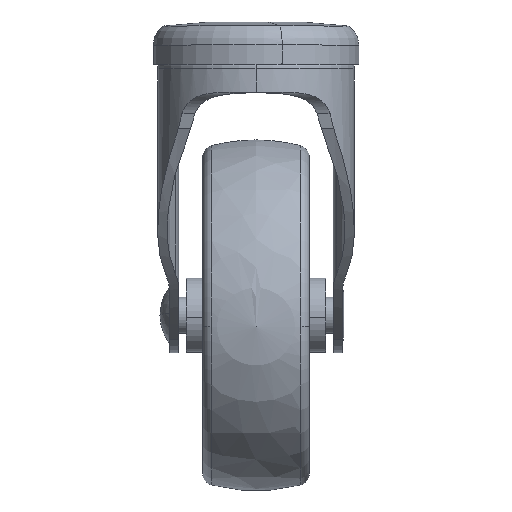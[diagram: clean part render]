
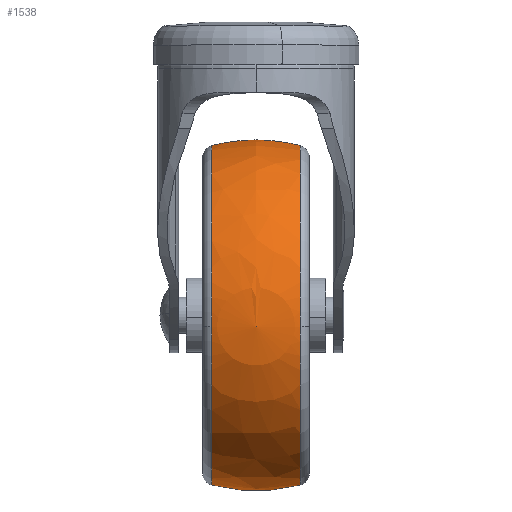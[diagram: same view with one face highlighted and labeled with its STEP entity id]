
A CAD part, top view. The second image highlights one B-rep face of the part: STEP entity #1538.
In plain terms, the highlighted spherical face has radius 37.5 mm.
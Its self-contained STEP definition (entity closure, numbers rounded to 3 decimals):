
#985 = EDGE_LOOP ( 'NONE', ( #1211, #1212, #1213, #1214, #1215, #1216 ) ) ;
#1211 = ORIENTED_EDGE ( 'NONE', *, *, #1593, .F. ) ;
#1212 = ORIENTED_EDGE ( 'NONE', *, *, #1894, .T. ) ;
#1213 = ORIENTED_EDGE ( 'NONE', *, *, #1601, .T. ) ;
#1214 = ORIENTED_EDGE ( 'NONE', *, *, #1597, .T. ) ;
#1215 = ORIENTED_EDGE ( 'NONE', *, *, #1879, .F. ) ;
#1216 = ORIENTED_EDGE ( 'NONE', *, *, #1883, .F. ) ;
#1538 = ADVANCED_FACE ( 'NONE', ( #4279 ), #4280, .T. ) ;
#1593 = EDGE_CURVE ( 'NONE', #3458, #3440, #3915, .T. ) ;
#1597 = EDGE_CURVE ( 'NONE', #3445, #3449, #3923, .T. ) ;
#1601 = EDGE_CURVE ( 'NONE', #3438, #3445, #3933, .T. ) ;
#1879 = EDGE_CURVE ( 'NONE', #3421, #3449, #3975, .T. ) ;
#1883 = EDGE_CURVE ( 'NONE', #3440, #3421, #3985, .T. ) ;
#1894 = EDGE_CURVE ( 'NONE', #3458, #3438, #4007, .T. ) ;
#3421 = VERTEX_POINT ( 'NONE', #7657 ) ;
#3438 = VERTEX_POINT ( 'NONE', #7677 ) ;
#3440 = VERTEX_POINT ( 'NONE', #7679 ) ;
#3445 = VERTEX_POINT ( 'NONE', #7684 ) ;
#3449 = VERTEX_POINT ( 'NONE', #7688 ) ;
#3458 = VERTEX_POINT ( 'NONE', #7697 ) ;
#3836 = AXIS2_PLACEMENT_3D ( 'NONE', #4268, #4283, #4284 ) ;
#3915 = CIRCLE ( 'NONE', #3920, 37.5 ) ;
#3920 = AXIS2_PLACEMENT_3D ( 'NONE', #4629, #4630, #4631 ) ;
#3923 = CIRCLE ( 'NONE', #3928, 37.5 ) ;
#3928 = AXIS2_PLACEMENT_3D ( 'NONE', #4641, #4642, #4643 ) ;
#3933 = CIRCLE ( 'NONE', #3936, 36.281 ) ;
#3936 = AXIS2_PLACEMENT_3D ( 'NONE', #4655, #4656, #4657 ) ;
#3975 = CIRCLE ( 'NONE', #3980, 36.281 ) ;
#3980 = AXIS2_PLACEMENT_3D ( 'NONE', #4725, #4726, #4727 ) ;
#3985 = CIRCLE ( 'NONE', #3988, 36.281 ) ;
#3988 = AXIS2_PLACEMENT_3D ( 'NONE', #4737, #4738, #4739 ) ;
#4007 = CIRCLE ( 'NONE', #4010, 36.281 ) ;
#4010 = AXIS2_PLACEMENT_3D ( 'NONE', #4775, #4776, #4777 ) ;
#4268 = CARTESIAN_POINT ( 'NONE',  ( 0., -57.5, -37.5 ) ) ;
#4279 = FACE_OUTER_BOUND ( 'NONE', #985, .T. ) ;
#4280 = SPHERICAL_SURFACE ( 'NONE', #3836, 37.5 ) ;
#4283 = DIRECTION ( 'NONE',  ( 0., 0.068, -0.998 ) ) ;
#4284 = DIRECTION ( 'NONE',  ( 0., 0.998, 0.068 ) ) ;
#4629 = CARTESIAN_POINT ( 'NONE',  ( 0., -57.5, -37.5 ) ) ;
#4630 = DIRECTION ( 'NONE',  ( 0., 0.068, -0.998 ) ) ;
#4631 = DIRECTION ( 'NONE',  ( 0., 0.998, 0.068 ) ) ;
#4641 = CARTESIAN_POINT ( 'NONE',  ( 0., -57.5, -37.5 ) ) ;
#4642 = DIRECTION ( 'NONE',  ( 0., -0.068, 0.998 ) ) ;
#4643 = DIRECTION ( 'NONE',  ( 0., -0.998, -0.068 ) ) ;
#4655 = CARTESIAN_POINT ( 'NONE',  ( 9.482, -57.5, -37.5 ) ) ;
#4656 = DIRECTION ( 'NONE',  ( -1., 0., 0. ) ) ;
#4657 = DIRECTION ( 'NONE',  ( 0., -0.068, 0.998 ) ) ;
#4725 = CARTESIAN_POINT ( 'NONE',  ( -9.482, -57.5, -37.5 ) ) ;
#4726 = DIRECTION ( 'NONE',  ( -1., 0., 0. ) ) ;
#4727 = DIRECTION ( 'NONE',  ( 0., -0.068, 0.998 ) ) ;
#4737 = CARTESIAN_POINT ( 'NONE',  ( -9.482, -57.5, -37.5 ) ) ;
#4738 = DIRECTION ( 'NONE',  ( -1., 0., 0. ) ) ;
#4739 = DIRECTION ( 'NONE',  ( 0., -0.068, 0.998 ) ) ;
#4775 = CARTESIAN_POINT ( 'NONE',  ( 9.482, -57.5, -37.5 ) ) ;
#4776 = DIRECTION ( 'NONE',  ( -1., 0., 0. ) ) ;
#4777 = DIRECTION ( 'NONE',  ( 0., -0.068, 0.998 ) ) ;
#7657 = CARTESIAN_POINT ( 'NONE',  ( -9.482, -59.974, -1.303 ) ) ;
#7677 = CARTESIAN_POINT ( 'NONE',  ( 9.482, -59.974, -1.303 ) ) ;
#7679 = CARTESIAN_POINT ( 'NONE',  ( -9.482, -93.697, -39.974 ) ) ;
#7684 = CARTESIAN_POINT ( 'NONE',  ( 9.482, -21.303, -35.026 ) ) ;
#7688 = CARTESIAN_POINT ( 'NONE',  ( -9.482, -21.303, -35.026 ) ) ;
#7697 = CARTESIAN_POINT ( 'NONE',  ( 9.482, -93.697, -39.974 ) ) ;
